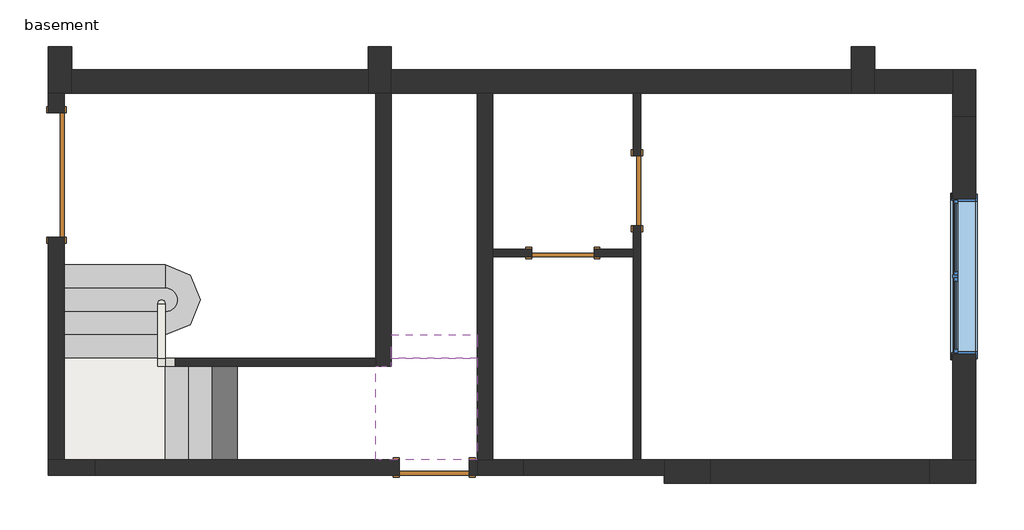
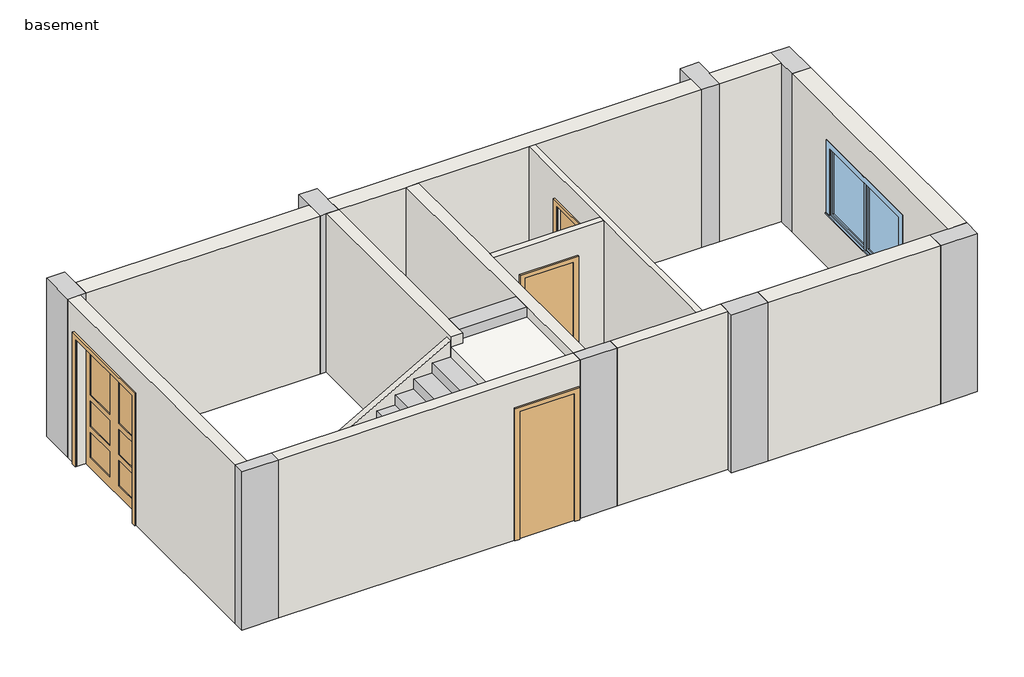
# One storey: 15 walls, 8 columns, 4 doors, 4 stair flights, 2 slabs, 1 window.
"""IFC4 building model written with IfcOpenShell, lengths in millimetres."""

import ifcopenshell
import ifcopenshell.guid

model = None  # the IFC model being written
_history = None  # IfcOwnerHistory: only IFC2X3 demands one
_inside = {}  # id of a spatial element -> (the spatial element, [elements in it])
_under = {}  # id of a project, library or spatial element -> (it, [spatial elements below it])
_declared = {}  # id of a project -> (the project, [libraries it declares])
_typed = {}  # id of a type object -> (the type object, [elements of that type])
_made_of = {}  # id of a material, layer set ... -> (it, [elements and type objects made of it])


def new_model(schema):
    """Start an empty IFC model of exactly this schema.

    Asked for "IFC4X3", IfcOpenShell would pick the latest addendum, in which some entities
    have other attributes; the version numbers below select the first issue.
    IFC2X3 requires an IfcOwnerHistory on every rooted entity: one is made here for all.
    """
    global model, _history
    if schema == "IFC4X3":
        model = ifcopenshell.file(schema_version=(4, 3, 0, 0))
    else:
        model = ifcopenshell.file(schema=schema)
    _inside.clear()
    _under.clear()
    _declared.clear()
    _typed.clear()
    _made_of.clear()
    _history = None
    if model.schema == "IFC2X3":
        org = make("IfcOrganization", Name="unknown")
        user = make(
            "IfcPersonAndOrganization",
            ThePerson=make("IfcPerson", FamilyName="unknown"),
            TheOrganization=org,
        )
        app = make(
            "IfcApplication",
            ApplicationDeveloper=org,
            Version="unknown",
            ApplicationFullName="unknown",
            ApplicationIdentifier="unknown",
        )
        _history = make(
            "IfcOwnerHistory",
            OwningUser=user,
            OwningApplication=app,
            ChangeAction="ADDED",
            CreationDate=0,
        )
    return model


def make(cls, **values):
    """One entity of the class cls with the attributes given. An attribute that is None is left unset."""
    return model.create_entity(
        cls, **{name: value for name, value in values.items() if value is not None}
    )


def rooted(cls, **values):
    """An entity with a GlobalId (a new one), such as an element, a storey or a relation."""
    return make(cls, GlobalId=ifcopenshell.guid.new(), OwnerHistory=_history, **values)


def si_unit(unit_type, name, prefix=None):
    """IfcSIUnit, for example si_unit("LENGTHUNIT", "METRE", prefix="MILLI")."""
    return make("IfcSIUnit", UnitType=unit_type, Prefix=prefix, Name=name)


def assignment(units):
    """IfcUnitAssignment: the units of a project."""
    return None if units is None else make("IfcUnitAssignment", Units=units)


def point(xyz):
    """IfcCartesianPoint."""
    return None if xyz is None else make("IfcCartesianPoint", Coordinates=xyz)


def direction(xyz):
    """IfcDirection."""
    return None if xyz is None else make("IfcDirection", DirectionRatios=xyz)


def frame(location, z_axis=None, x_axis=None):
    """IfcAxis2Placement3D, a coordinate frame: its origin and axes. An axis left out is left unset."""
    return make(
        "IfcAxis2Placement3D",
        Location=point(location),
        Axis=direction(z_axis),
        RefDirection=direction(x_axis),
    )


def frame_2d(location, x_axis=None):
    """IfcAxis2Placement2D, a coordinate frame in the plane: its origin and x axis."""
    return make(
        "IfcAxis2Placement2D", Location=point(location), RefDirection=direction(x_axis)
    )


def origin():
    """The frame at (0, 0, 0) with its axes left unset."""
    return frame((0.0, 0.0, 0.0))


def origin_with_axes():
    """The frame at (0, 0, 0) with the z axis (0, 0, 1) and the x axis (1, 0, 0) written out."""
    return frame((0.0, 0.0, 0.0), z_axis=(0.0, 0.0, 1.0), x_axis=(1.0, 0.0, 0.0))


def place(relative_to, where):
    """IfcLocalPlacement: puts the frame where relative to a parent placement (None: the world)."""
    return make(
        "IfcLocalPlacement", PlacementRelTo=relative_to, RelativePlacement=where
    )


def context(
    kind, dimensions, precision=None, world=None, true_north=None, identifier=None
):
    """IfcGeometricRepresentationContext, for example the 3D "Model" context."""
    return make(
        "IfcGeometricRepresentationContext",
        ContextIdentifier=identifier,
        ContextType=kind,
        CoordinateSpaceDimension=dimensions,
        Precision=precision,
        WorldCoordinateSystem=world,
        TrueNorth=true_north,
    )


def project(units=None, contexts=None):
    """IfcProject with its units and contexts."""
    return rooted(
        "IfcProject",
        Name="project",
        RepresentationContexts=contexts,
        UnitsInContext=assignment(units),
    )


def spatial(cls, under=None, at=None, **own):
    """A site, building, storey or space (cls), placed at a placement, below another one or the project."""
    s = rooted(cls, ObjectPlacement=at, **own)
    if under is not None:
        _under.setdefault(under.id(), (under, []))[1].append(s)
    return s


def polyline(points):
    """IfcPolyline through the points."""
    return make("IfcPolyline", Points=[point(p) for p in points])


def circle_curve(where, radius):
    """IfcCircle in the frame where."""
    return make("IfcCircle", Position=where, Radius=radius)


def ellipse_curve(where, semi_axis1, semi_axis2):
    """IfcEllipse in the frame where."""
    return make(
        "IfcEllipse", Position=where, SemiAxis1=semi_axis1, SemiAxis2=semi_axis2
    )


def trimmed(basis, trim1, trim2, sense, master):
    """IfcTrimmedCurve: the piece of a basis curve between two trims."""
    return make(
        "IfcTrimmedCurve",
        BasisCurve=basis,
        Trim1=trim1,
        Trim2=trim2,
        SenseAgreement=sense,
        MasterRepresentation=master,
    )


def segment(curve, same_sense, transition):
    """IfcCompositeCurveSegment."""
    return make(
        "IfcCompositeCurveSegment",
        Transition=transition,
        SameSense=same_sense,
        ParentCurve=curve,
    )


def composite_curve(segments, self_intersect=None):
    """IfcCompositeCurve: segments joined end to end."""
    return make("IfcCompositeCurve", Segments=segments, SelfIntersect=self_intersect)


def outline(outer, holes=None, kind="AREA"):
    """IfcArbitraryClosedProfileDef: a profile drawn as a closed curve; with holes, ...WithVoids."""
    if holes is None:
        return make("IfcArbitraryClosedProfileDef", ProfileType=kind, OuterCurve=outer)
    return make(
        "IfcArbitraryProfileDefWithVoids",
        ProfileType=kind,
        OuterCurve=outer,
        InnerCurves=holes,
    )


def extrude(swept, where, along, depth):
    """IfcExtrudedAreaSolid: the profile swept, set in the frame where, extruded along a direction by depth."""
    return make(
        "IfcExtrudedAreaSolid",
        SweptArea=swept,
        Position=where,
        ExtrudedDirection=direction(along),
        Depth=depth,
    )


def faces_of(points, faces, orient=None, outer=None):
    """IfcFace entities. A face is a list of loops; a loop is a list of indices into points, from 0.

    orient and outer hold one flag for each loop. By default every Orientation is true, the
    first loop of a face is its IfcFaceOuterBound and the others are IfcFaceBound.
    """
    made = []
    for i, loops in enumerate(faces):
        bounds = []
        for j, loop in enumerate(loops):
            is_outer = j == 0 if outer is None else outer[i][j]
            bounds.append(
                make(
                    "IfcFaceOuterBound" if is_outer else "IfcFaceBound",
                    Bound=make("IfcPolyLoop", Polygon=[points[k] for k in loop]),
                    Orientation=True if orient is None else orient[i][j],
                )
            )
        made.append(make("IfcFace", Bounds=bounds))
    return made


def faceted_brep(points, faces, orient=None, outer=None, voids=None):
    """IfcFacetedBrep: a solid bounded by flat faces; with voids (closed shells), ...WithVoids."""
    shared = [point(p) for p in points]
    hull = make("IfcClosedShell", CfsFaces=faces_of(shared, faces, orient, outer))
    if voids is None:
        return make("IfcFacetedBrep", Outer=hull)
    return make(
        "IfcFacetedBrepWithVoids",
        Outer=hull,
        Voids=[
            make(cls, CfsFaces=faces_of(shared, fs, o, b)) for cls, fs, o, b in voids
        ],
    )


def shape(context_of_items, identifier, shape_type, items):
    """IfcShapeRepresentation: the items that make up one representation, for example the "Body"."""
    return make(
        "IfcShapeRepresentation",
        ContextOfItems=context_of_items,
        RepresentationIdentifier=identifier,
        RepresentationType=shape_type,
        Items=items,
    )


def source(mapping_origin, context_of_items, identifier, shape_type, items):
    """IfcRepresentationMap: a shape defined once, which mapped items show again and again."""
    return make(
        "IfcRepresentationMap",
        MappingOrigin=mapping_origin,
        MappedRepresentation=shape(context_of_items, identifier, shape_type, items),
    )


def transform(
    local_origin,
    x_axis=None,
    y_axis=None,
    z_axis=None,
    scale=None,
    scale2=None,
    scale3=None,
    uniform=True,
):
    """IfcCartesianTransformationOperator3D, or its non-uniform kind. x_axis, y_axis, z_axis: its Axis1, 2, 3."""
    if uniform:
        return make(
            "IfcCartesianTransformationOperator3D",
            Axis1=direction(x_axis),
            Axis2=direction(y_axis),
            LocalOrigin=point(local_origin),
            Scale=scale,
            Axis3=direction(z_axis),
        )
    return make(
        "IfcCartesianTransformationOperator3DnonUniform",
        Axis1=direction(x_axis),
        Axis2=direction(y_axis),
        LocalOrigin=point(local_origin),
        Scale=scale,
        Axis3=direction(z_axis),
        Scale2=scale2,
        Scale3=scale3,
    )


def mapped(mapping_source, mapping_target):
    """IfcMappedItem: shows the shape of a source again, moved by a transform."""
    return make(
        "IfcMappedItem", MappingSource=mapping_source, MappingTarget=mapping_target
    )


def made_of(thing, what):
    """Note that an element or type object is made of a material, layer set ...; save() writes the relation."""
    if what is not None:
        _made_of.setdefault(what.id(), (what, []))[1].append(thing)
    return thing


def element(
    cls,
    number,
    at=None,
    inside=None,
    cuts=None,
    type_object=None,
    material=None,
    context=None,
    identifier="Body",
    shape_type=None,
    held_by="IfcProductDefinitionShape",
    body=None,
    shapes=None,
    **own,
):
    """One element of the class cls, such as IfcWall. Its Tag is "e" and its number.

    at: its placement. inside: the storey or other place that contains it. cuts: it is an
    opening in that element (IfcRelVoidsElement). A single representation is given by context,
    identifier, shape_type and body (its items); several are given by shapes. held_by: the class
    of the entity that holds the representations. save() writes the other relations.
    """
    e = rooted(cls, Tag="e%d" % number, ObjectPlacement=at, **own)
    if body is not None:
        shapes = [shape(context, identifier, shape_type, body)]
    if shapes is not None:
        e.Representation = make(held_by, Representations=shapes)
    if inside is not None:
        _inside.setdefault(inside.id(), (inside, []))[1].append(e)
    if cuts is not None:
        rooted(
            "IfcRelVoidsElement", RelatingBuildingElement=cuts, RelatedOpeningElement=e
        )
    if type_object is not None:
        _typed.setdefault(type_object.id(), (type_object, []))[1].append(e)
    return made_of(e, material)


def aggregate(whole, parts):
    """IfcRelAggregates: a whole, such as a stair, and the parts it consists of."""
    return rooted("IfcRelAggregates", RelatingObject=whole, RelatedObjects=parts)


def save(model, path):
    """Write the relations noted so far, then the file.

    IfcRelAggregates (storeys below a building ...), IfcRelContainedInSpatialStructure (elements
    in a storey), IfcRelDefinesByType, IfcRelAssociatesMaterial and IfcRelDeclares: one each for
    every whole, place, type object, material and project.
    """
    for whole, parts in _under.values():
        aggregate(whole, parts)
    for where, things in _inside.values():
        rooted(
            "IfcRelContainedInSpatialStructure",
            RelatedElements=things,
            RelatingStructure=where,
        )
    for kind, things in _typed.values():
        rooted("IfcRelDefinesByType", RelatedObjects=things, RelatingType=kind)
    for what, things in _made_of.values():
        rooted("IfcRelAssociatesMaterial", RelatedObjects=things, RelatingMaterial=what)
    for by, libraries in _declared.values():
        rooted("IfcRelDeclares", RelatingContext=by, RelatedDefinitions=libraries)
    model.write(path)


def plane_surface(at):
    """IfcPlane: the flat surface through the origin of the frame at, square to its z axis."""
    return make("IfcPlane", Position=at)


def cylinder_surface(at, radius):
    """IfcCylindricalSurface: all points at the distance radius from the z axis of the frame at."""
    return make("IfcCylindricalSurface", Position=at, Radius=radius)


def revolved_surface(curve, axis_point, axis_direction):
    """IfcSurfaceOfRevolution: the curve turned about the line through axis_point along axis_direction."""
    return make(
        "IfcSurfaceOfRevolution",
        SweptCurve=make("IfcArbitraryOpenProfileDef", ProfileType="CURVE", Curve=curve),
        AxisPosition=make("IfcAxis1Placement", Location=point(axis_point), Axis=direction(axis_direction)),
    )


def advanced_brep(points, edges, surfaces, faces):
    """IfcAdvancedBrep: a solid bounded by faces that lie on surfaces and meet in shared edges.

    An edge is (start, end): straight between two places in points (the first is 0);
    or (start, end, curve); or (start, end, curve, False) where it runs against its curve.
    A face is (place in surfaces, loops), or (place, loops, False) where it looks against
    its surface's normal. A loop lists edges by number (the first is 1), with a minus sign
    where the edge is run from its end to its start. The first loop is the outer one.
    """
    corners = [point(p) for p in points]
    vertices = [make("IfcVertexPoint", VertexGeometry=c) for c in corners]
    made = []
    for start, end, *more in edges:
        made.append(
            make(
                "IfcEdgeCurve",
                EdgeStart=vertices[start],
                EdgeEnd=vertices[end],
                EdgeGeometry=more[0] if more else make("IfcPolyline", Points=[corners[start], corners[end]]),
                SameSense=more[1] if len(more) > 1 else True,
            )
        )
    hull = []
    for where, loops, *sense in faces:
        bounds = []
        for j, loop in enumerate(loops):
            ring = [make("IfcOrientedEdge", EdgeElement=made[abs(k) - 1], Orientation=k > 0) for k in loop]
            bounds.append(
                make(
                    "IfcFaceOuterBound" if j == 0 else "IfcFaceBound",
                    Bound=make("IfcEdgeLoop", EdgeList=ring),
                    Orientation=True,
                )
            )
        hull.append(make("IfcAdvancedFace", Bounds=bounds, FaceSurface=surfaces[where], SameSense=sense[0] if sense else True))
    return make("IfcAdvancedBrep", Outer=make("IfcClosedShell", CfsFaces=hull))


def m_concrete_rectangular_column_200_x_600mm_4_bdcf31bf(model_context):
    return source(origin(), model_context, "Body", "SweptSolid", [
        extrude(outline(polyline([(100.0, 300.0), (100.0, -300.0), (-100.0, -300.0), (-100.0, 300.0), (100.0, 300.0)])), frame((0.0, 0.0, -1920.0), z_axis=(0.0, 0.0, 1.0), x_axis=(1.0, 0.0, 0.0)), (0.0, 0.0, 1.0), 2720.0),
    ])


def m_double_panel_1_1600_x_2200_de328169(model_context):
    return source(origin(), model_context, "Body", "SweptSolid", [
        extrude(outline(polyline([(2276.0, -876.0), (0.0, -876.0), (0.0, -800.0), (2200.0, -800.0), (2200.0, 800.0), (0.0, 800.0), (0.0, 876.0), (2276.0, 876.0), (2276.0, -876.0)])), frame((0.0, 100.0, 0.0), z_axis=(0.0, 1.0, 0.0), x_axis=(0.0, 0.0, 1.0)), (0.0, 0.0, 1.0), 25.0),
        extrude(outline(polyline([(127.0, 87.3), (673.0, 87.3), (673.0, 61.7), (127.0, 61.7), (127.0, 87.3)])), frame((0.0, 0.0, 1247.6), z_axis=(0.0, 0.0, 1.0), x_axis=(1.0, 0.0, 0.0)), (0.0, 0.0, 1.0), 800.0),
        extrude(outline(polyline([(127.0, 87.3), (673.0, 87.3), (673.0, 61.7), (127.0, 61.7), (127.0, 87.3)])), frame((0.0, 0.0, 711.3), z_axis=(0.0, 0.0, 1.0), x_axis=(1.0, 0.0, 0.0)), (0.0, 0.0, 1.0), 434.3),
        extrude(outline(polyline([(127.0, 87.3), (673.0, 87.3), (673.0, 61.7), (127.0, 61.7), (127.0, 87.3)])), frame((0.0, 0.0, 175.0), z_axis=(0.0, 0.0, 1.0), x_axis=(1.0, 0.0, 0.0)), (0.0, 0.0, 1.0), 434.3),
        extrude(outline(polyline([(-673.0, 87.3), (-127.0, 87.3), (-127.0, 61.7), (-673.0, 61.7), (-673.0, 87.3)])), frame((0.0, 0.0, 1247.6), z_axis=(0.0, 0.0, 1.0), x_axis=(1.0, 0.0, 0.0)), (0.0, 0.0, 1.0), 800.0),
        extrude(outline(polyline([(-673.0, 87.3), (-127.0, 87.3), (-127.0, 61.7), (-673.0, 61.7), (-673.0, 87.3)])), frame((0.0, 0.0, 711.3), z_axis=(0.0, 0.0, 1.0), x_axis=(1.0, 0.0, 0.0)), (0.0, 0.0, 1.0), 434.3),
        extrude(outline(polyline([(-673.0, 87.3), (-127.0, 87.3), (-127.0, 61.7), (-673.0, 61.7), (-673.0, 87.3)])), frame((0.0, 0.0, 175.0), z_axis=(0.0, 0.0, 1.0), x_axis=(1.0, 0.0, 0.0)), (0.0, 0.0, 1.0), 434.3),
        extrude(outline(polyline([(2200.0, -800.0), (0.0, -800.0), (0.0, 800.0), (2200.0, 800.0), (2200.0, -800.0)]), holes=[polyline([(2047.6, 127.0), (2047.6, 673.0), (1247.6, 673.0), (1247.6, 127.0), (2047.6, 127.0)]), polyline([(711.3, 673.0), (711.3, 127.0), (1145.6, 127.0), (1145.6, 673.0), (711.3, 673.0)]), polyline([(609.3, 673.0), (175.0, 673.0), (175.0, 127.0), (609.3, 127.0), (609.3, 673.0)]), polyline([(2047.6, -127.0), (1247.6, -127.0), (1247.6, -673.0), (2047.6, -673.0), (2047.6, -127.0)]), polyline([(1145.6, -673.0), (1145.6, -127.0), (711.3, -127.0), (711.3, -673.0), (1145.6, -673.0)]), polyline([(175.0, -127.0), (175.0, -673.0), (609.3, -673.0), (609.3, -127.0), (175.0, -127.0)])]), frame((0.0, 49.0, 0.0), z_axis=(0.0, 1.0, 0.0), x_axis=(0.0, 0.0, 1.0)), (0.0, 0.0, 1.0), 51.0),
        extrude(outline(polyline([(2200.0, -800.0), (2200.0, 800.0), (0.0, 800.0), (0.0, 876.0), (2276.0, 876.0), (2276.0, -876.0), (0.0, -876.0), (0.0, -800.0), (2200.0, -800.0)])), frame((0.0, -125.0, 0.0), z_axis=(0.0, 1.0, 0.0), x_axis=(0.0, 0.0, 1.0)), (0.0, 0.0, 1.0), 25.0),
    ])


def m_single_flush_0900_x_2200mm_2_1c9fdd87(model_context):
    return source(origin(), model_context, "Body", "SweptSolid", [
        extrude(outline(polyline([(2276.0, -526.0), (0.0, -526.0), (0.0, -450.0), (2200.0, -450.0), (2200.0, 450.0), (0.0, 450.0), (0.0, 526.0), (2276.0, 526.0), (2276.0, -526.0)])), frame((0.0, -75.0, 0.0), z_axis=(0.0, 1.0, 0.0), x_axis=(0.0, 0.0, 1.0)), (0.0, 0.0, 1.0), 25.0),
        extrude(outline(polyline([(2276.0, 526.0), (2276.0, -526.0), (0.0, -526.0), (0.0, -450.0), (2200.0, -450.0), (2200.0, 450.0), (0.0, 450.0), (0.0, 526.0), (2276.0, 526.0)])), frame((0.0, 50.0, 0.0), z_axis=(0.0, 1.0, 0.0), x_axis=(0.0, 0.0, 1.0)), (0.0, 0.0, 1.0), 25.0),
        extrude(outline(polyline([(450.0, 1.0), (450.0, -50.0), (-450.0, -50.0), (-450.0, 1.0), (450.0, 1.0)])), origin_with_axes(), (0.0, 0.0, 1.0), 2200.0),
    ])


def m_single_flush_0900_x_2200mm_2_99173924(model_context):
    return source(origin(), model_context, "Body", "SweptSolid", [
        extrude(outline(polyline([(2276.0, -526.0), (0.0, -526.0), (0.0, -450.0), (2200.0, -450.0), (2200.0, 450.0), (0.0, 450.0), (0.0, 526.0), (2276.0, 526.0), (2276.0, -526.0)])), frame((0.0, 100.0, 0.0), z_axis=(0.0, 1.0, 0.0), x_axis=(0.0, 0.0, 1.0)), (0.0, 0.0, 1.0), 25.0),
        extrude(outline(polyline([(2276.0, 526.0), (2276.0, -526.0), (0.0, -526.0), (0.0, -450.0), (2200.0, -450.0), (2200.0, 450.0), (0.0, 450.0), (0.0, 526.0), (2276.0, 526.0)])), frame((0.0, -125.0, 0.0), z_axis=(0.0, 1.0, 0.0), x_axis=(0.0, 0.0, 1.0)), (0.0, 0.0, 1.0), 25.0),
        extrude(outline(polyline([(450.0, 49.0), (-450.0, 49.0), (-450.0, 100.0), (450.0, 100.0), (450.0, 49.0)])), origin_with_axes(), (0.0, 0.0, 1.0), 2200.0),
    ])


def m_single_flush_800_x_2200mm_3_139129a3(model_context):
    return source(origin(), model_context, "Body", "SweptSolid", [
        extrude(outline(polyline([(2276.0, -476.0), (0.0, -476.0), (0.0, -400.0), (2200.0, -400.0), (2200.0, 400.0), (0.0, 400.0), (0.0, 476.0), (2276.0, 476.0), (2276.0, -476.0)])), frame((0.0, 50.0, 0.0), z_axis=(0.0, 1.0, 0.0), x_axis=(0.0, 0.0, 1.0)), (0.0, 0.0, 1.0), 25.0),
        extrude(outline(polyline([(2276.0, 476.0), (2276.0, -476.0), (0.0, -476.0), (0.0, -400.0), (2200.0, -400.0), (2200.0, 400.0), (0.0, 400.0), (0.0, 476.0), (2276.0, 476.0)])), frame((0.0, -75.0, 0.0), z_axis=(0.0, 1.0, 0.0), x_axis=(0.0, 0.0, 1.0)), (0.0, 0.0, 1.0), 25.0),
        extrude(outline(polyline([(400.0, -1.0), (-400.0, -1.0), (-400.0, 50.0), (400.0, 50.0), (400.0, -1.0)])), origin_with_axes(), (0.0, 0.0, 1.0), 2200.0),
    ])


def walls_3_walls_3_5e097b37(model_context):
    return source(origin(), model_context, "Body", "SweptSolid", [
        extrude(outline(composite_curve([segment(trimmed(circle_curve(frame_2d((-8001.4546742, -1931.8810781)), 50.0), [point((-8051.4546742, -1931.8810781))], [point((-7951.4546742, -1931.8810781))], False, "CARTESIAN"), True, "CONTINUOUS"), segment(polyline([(-7951.4546742, -1931.8810781), (-8051.4546742, -1931.8810781)]), True, "CONTINUOUS")], self_intersect=False)), frame((0.0, 0.0, -1920.0), z_axis=(0.0, 0.0, 1.0), x_axis=(1.0, 0.0, 0.0)), (0.0, 0.0, 1.0), 735.91634),
    ])


def m_casement_dbl_with_trim_2000_x_1200_efed7f01(model_context):
    return source(origin(), model_context, "Body", "SweptSolid", [
        extrude(outline(polyline([(63.5, -134.175), (63.5, -121.475), (936.5, -121.475), (936.5, -134.175), (63.5, -134.175)])), frame((0.0, 0.0, 1063.5), z_axis=(0.0, 0.0, 1.0), x_axis=(1.0, 0.0, 0.0)), (0.0, 0.0, 1.0), 1073.0),
        extrude(outline(polyline([(2180.95, 19.05), (1019.05, 19.05), (1019.05, 980.95), (2180.95, 980.95), (2180.95, 19.05)]), holes=[polyline([(2136.5, 63.5), (2136.5, 936.5), (1063.5, 936.5), (1063.5, 63.5), (2136.5, 63.5)])]), frame((0.0, -150.05, 0.0), z_axis=(0.0, 1.0, 0.0), x_axis=(0.0, 0.0, 1.0)), (0.0, 0.0, 1.0), 44.45),
        extrude(outline(polyline([(-1069.95, -194.75), (-1069.95, -169.05), (1069.95, -169.05), (1069.95, -194.75), (-1069.95, -194.75)])), frame((0.0, 0.0, 1000.0), z_axis=(0.0, 0.0, 1.0), x_axis=(1.0, 0.0, 0.0)), (0.0, 0.0, 1.0), 19.05),
        extrude(outline(polyline([(2180.95, -980.95), (2180.95, 980.95), (1019.05, 980.95), (1019.05, 1069.95), (2269.95, 1069.95), (2269.95, -1069.95), (1019.05, -1069.95), (1019.05, -980.95), (2180.95, -980.95)])), frame((0.0, -182.05, 0.0), z_axis=(0.0, 1.0, 0.0), x_axis=(0.0, 0.0, 1.0)), (0.0, 0.0, 1.0), 13.0),
        extrude(outline(polyline([(2257.25, 1057.25), (2257.25, -1057.25), (942.75, -1057.25), (942.75, 1057.25), (2257.25, 1057.25)]), holes=[polyline([(2168.25, 968.25), (1031.75, 968.25), (1031.75, -968.25), (2168.25, -968.25), (2168.25, 968.25)])]), frame((0.0, 130.95, 0.0), z_axis=(0.0, 1.0, 0.0), x_axis=(0.0, 0.0, 1.0)), (0.0, 0.0, 1.0), 19.0),
        extrude(outline(polyline([(-63.5, -121.475), (-63.5, -134.175), (-936.5, -134.175), (-936.5, -121.475), (-63.5, -121.475)])), frame((0.0, 0.0, 1063.5), z_axis=(0.0, 0.0, 1.0), x_axis=(1.0, 0.0, 0.0)), (0.0, 0.0, 1.0), 1073.0),
        extrude(outline(polyline([(2180.95, -980.95), (1019.05, -980.95), (1019.05, -19.05), (2180.95, -19.05), (2180.95, -980.95)]), holes=[polyline([(2136.5, -936.5), (2136.5, -63.5), (1063.5, -63.5), (1063.5, -936.5), (2136.5, -936.5)])]), frame((0.0, -150.05, 0.0), z_axis=(0.0, 1.0, 0.0), x_axis=(0.0, 0.0, 1.0)), (0.0, 0.0, 1.0), 44.45),
        extrude(outline(polyline([(2200.0, -1000.0), (1000.0, -1000.0), (1000.0, 1000.0), (2200.0, 1000.0), (2200.0, -1000.0)]), holes=[polyline([(2168.25, -968.25), (2168.25, 968.25), (1031.75, 968.25), (1031.75, -968.25), (2168.25, -968.25)])]), frame((0.0, -105.6, 0.0), z_axis=(0.0, 1.0, 0.0), x_axis=(0.0, 0.0, 1.0)), (0.0, 0.0, 1.0), 236.55),
        extrude(outline(polyline([(2200.0, 1000.0), (2200.0, -1000.0), (1000.0, -1000.0), (1000.0, 1000.0), (2200.0, 1000.0)]), holes=[polyline([(2180.95, 980.95), (1019.05, 980.95), (1019.05, -980.95), (2180.95, -980.95), (2180.95, 980.95)])]), frame((0.0, -169.05, 0.0), z_axis=(0.0, 1.0, 0.0), x_axis=(0.0, 0.0, 1.0)), (0.0, 0.0, 1.0), 63.45),
        extrude(outline(polyline([(19.05, -105.6), (19.05, -169.1), (-19.05, -169.1), (-19.05, -105.6), (19.05, -105.6)])), frame((0.0, 0.0, 1019.05), z_axis=(0.0, 0.0, 1.0), x_axis=(1.0, 0.0, 0.0)), (0.0, 0.0, 1.0), 1161.9),
    ])


model = new_model("IFC4")

# Units and contexts
model_context = context("Model", 3, world=origin())
ifc_project = project(units=[si_unit("LENGTHUNIT", "METRE", prefix="MILLI")], contexts=[model_context])

# Site, building, storey
site = spatial("IfcSite", under=ifc_project)
building = spatial("IfcBuilding", under=site)
storey = spatial("IfcBuildingStorey", under=building, Name="basement", Elevation=-1920.0)

# Columns
placement = place(None, origin())
element("IfcColumn", 1, ObjectType="M_Concrete-Rectangular-Column : 200 x 600mm 4", at=placement, inside=storey, context=model_context, shape_type="Brep", body=[
    faceted_brep([(-3351.4546742, -4131.8810781, -1920.0), (-3951.4546742, -4131.8810781, -1920.0), (-3951.4546742, -3931.8810781, -1920.0), (-3751.4546742, -3931.8810781, -1920.0), (-3351.4546742, -3931.8810781, -1920.0), (-3351.4546742, -4131.8810781, 800.0), (-3951.4546742, -4131.8810781, 800.0), (-3951.4546742, -3931.8810781, 800.0), (-3751.4546742, -3931.8810781, 800.0), (-3351.4546742, -3931.8810781, 800.0)], [[[0, 1, 2, 3, 4]], [[5, 6, 1, 0]], [[6, 7, 2, 1]], [[7, 8, 9, 4, 3, 2]], [[9, 5, 0, 4]], [[5, 9, 8, 7, 6]]]),
])
m_concrete_rectangular_column_200_x_600mm_4_shape = m_concrete_rectangular_column_200_x_600mm_4_bdcf31bf(model_context)
element("IfcColumn", 2, ObjectType="M_Concrete-Rectangular-Column : 200 x 600mm 4", at=placement, inside=storey, context=model_context, shape_type="MappedRepresentation", body=[
    mapped(m_concrete_rectangular_column_200_x_600mm_4_shape, transform((-9151.4546742, -4031.8810781, 0.0), x_axis=(0.0, -1.0, 0.0), y_axis=(1.0, 0.0, 0.0), z_axis=(0.0, 0.0, 1.0))),
])
element("IfcColumn", 3, ObjectType="M_Concrete-Rectangular-Column : 300 x 600mm 2", at=placement, inside=storey, context=model_context, shape_type="Brep", body=[
    faceted_brep([(-5051.4546742, 1368.1189219, -1920.0), (-5051.4546742, 1068.1189219, -1920.0), (-5051.4546742, 768.1189219, -1920.0), (-5251.4546742, 768.1189219, -1920.0), (-5351.4546742, 768.1189219, -1920.0), (-5351.4546742, 1368.1189219, -1920.0), (-5051.4546742, 1368.1189219, 800.0), (-5051.4546742, 1068.1189219, 800.0), (-5051.4546742, 768.1189219, 800.0), (-5251.4546742, 768.1189219, 800.0), (-5351.4546742, 768.1189219, 800.0), (-5351.4546742, 1368.1189219, 800.0)], [[[0, 1, 2, 3, 4, 5]], [[6, 7, 8, 2, 1, 0]], [[8, 9, 10, 4, 3, 2]], [[10, 11, 5, 4]], [[11, 6, 0, 5]], [[6, 11, 10, 9, 8, 7]]]),
])
element("IfcColumn", 4, ObjectType="M_Concrete-Rectangular-Column : 300 x 600mm 2", at=placement, inside=storey, context=model_context, shape_type="SweptSolid", body=[
    extrude(outline(polyline([(-9151.4546742, 1368.1189219), (-9151.4546742, 768.1189219), (-9451.4546742, 768.1189219), (-9451.4546742, 1368.1189219), (-9151.4546742, 1368.1189219)])), frame((0.0, 0.0, -1920.0), z_axis=(0.0, 0.0, 1.0), x_axis=(1.0, 0.0, 0.0)), (0.0, 0.0, 1.0), 2720.0),
])
element("IfcColumn", 5, ObjectType="M_Concrete-Rectangular-Column : 300 x 600mm 2", at=placement, inside=storey, context=model_context, shape_type="SweptSolid", body=[
    extrude(outline(polyline([(1148.5453258, 1368.1189219), (1148.5453258, 768.1189219), (848.5453258, 768.1189219), (848.5453258, 1368.1189219), (1148.5453258, 1368.1189219)])), frame((0.0, 0.0, -1920.0), z_axis=(0.0, 0.0, 1.0), x_axis=(1.0, 0.0, 0.0)), (0.0, 0.0, 1.0), 2720.0),
])
element("IfcColumn", 6, ObjectType="M_Concrete-Rectangular-Column : 300 x 600mm 2", at=placement, inside=storey, context=model_context, shape_type="SweptSolid", body=[
    extrude(outline(polyline([(-951.4546742, -4231.8810781), (-1551.4546742, -4231.8810781), (-1551.4546742, -3931.8810781), (-951.4546742, -3931.8810781), (-951.4546742, -4231.8810781)])), frame((0.0, 0.0, -1920.0), z_axis=(0.0, 0.0, 1.0), x_axis=(1.0, 0.0, 0.0)), (0.0, 0.0, 1.0), 2720.0),
])
element("IfcColumn", 7, ObjectType="M_Concrete-Rectangular-Column : 300 x 600mm 2", at=placement, inside=storey, context=model_context, shape_type="SweptSolid", body=[
    extrude(outline(polyline([(2448.5453258, -4231.8810781), (1848.5453258, -4231.8810781), (1848.5453258, -3931.8810781), (2448.5453258, -3931.8810781), (2448.5453258, -4231.8810781)])), frame((0.0, 0.0, -1920.0), z_axis=(0.0, 0.0, 1.0), x_axis=(1.0, 0.0, 0.0)), (0.0, 0.0, 1.0), 2720.0),
])
element("IfcColumn", 8, ObjectType="M_Concrete-Rectangular-Column : 300 x 600mm 2", at=placement, inside=storey, context=model_context, shape_type="Brep", body=[
    faceted_brep([(2448.5453258, 1068.1189219, -1920.0), (2448.5453258, 468.1189219, -1920.0), (2148.5453258, 468.1189219, -1920.0), (2148.5453258, 768.1189219, -1920.0), (2148.5453258, 1068.1189219, -1920.0), (2448.5453258, 1068.1189219, 800.0), (2448.5453258, 468.1189219, 800.0), (2148.5453258, 468.1189219, 800.0), (2148.5453258, 768.1189219, 800.0), (2148.5453258, 1068.1189219, 800.0)], [[[0, 1, 2, 3, 4]], [[5, 6, 1, 0]], [[6, 7, 2, 1]], [[7, 8, 9, 4, 3, 2]], [[9, 5, 0, 4]], [[5, 9, 8, 7, 6]]]),
])

# Doors
m_double_panel_1_1600_x_2200_shape = m_double_panel_1_1600_x_2200_de328169(model_context)
element("IfcDoor", 9, ObjectType="M_Double-Panel 1 : 1600 x 2200", at=placement, inside=storey, context=model_context, shape_type="MappedRepresentation", body=[
    mapped(m_double_panel_1_1600_x_2200_shape, transform((-9351.4546742, -281.5302806, -1920.0), x_axis=(0.0, -1.0, 0.0), y_axis=(1.0, 0.0, 0.0), z_axis=(0.0, 0.0, 1.0))),
])
m_single_flush_0900_x_2200mm_2_shape = m_single_flush_0900_x_2200mm_2_1c9fdd87(model_context)
element("IfcDoor", 10, ObjectType="M_Single-Flush : 0900 x 2200mm 2", at=placement, inside=storey, context=model_context, shape_type="MappedRepresentation", body=[
    mapped(m_single_flush_0900_x_2200mm_2_shape, transform((-1901.4546742, -481.8810781, -1920.0), x_axis=(0.0, 1.0, 0.0), y_axis=(-1.0, 0.0, 0.0), z_axis=(0.0, 0.0, 1.0))),
])
m_single_flush_0900_x_2200mm_2_2_shape = m_single_flush_0900_x_2200mm_2_99173924(model_context)
element("IfcDoor", 11, ObjectType="M_Single-Flush : 0900 x 2200mm 2", at=placement, inside=storey, context=model_context, shape_type="MappedRepresentation", body=[
    mapped(m_single_flush_0900_x_2200mm_2_2_shape, transform((-4501.4546742, -4031.8810781, -1920.0), x_axis=(-1.0, 0.0, 0.0), y_axis=(0.0, -1.0, 0.0), z_axis=(0.0, 0.0, 1.0))),
])
m_single_flush_800_x_2200mm_3_shape = m_single_flush_800_x_2200mm_3_139129a3(model_context)
element("IfcDoor", 12, ObjectType="M_Single-Flush : 800 x 2200mm 3", at=placement, inside=storey, context=model_context, shape_type="MappedRepresentation", body=[
    mapped(m_single_flush_800_x_2200mm_3_shape, transform((-2851.4546742, -1281.8810781, -1920.0), x_axis=(-1.0, 0.0, 0.0), y_axis=(0.0, -1.0, 0.0), z_axis=(0.0, 0.0, 1.0))),
])

# Slabs
element("IfcSlab", 13, ObjectType="300mm Thickness", at=placement, inside=storey, context=model_context, shape_type="Brep", body=[
    faceted_brep([(-8051.4546742, -2631.8810781, -1070.0), (-9251.4546742, -2631.8810781, -1070.0), (-9251.4546742, -2706.7211896, -1070.0), (-9251.4546742, -3931.8810781, -1070.0), (-8176.6145627, -3931.8810781, -1070.0), (-7951.4546742, -3931.8810781, -1070.0), (-7951.4546742, -2731.8810781, -1070.0), (-8051.4546742, -2731.8810781, -1070.0), (-8051.4546742, -2706.7211896, -1070.0), (-8051.4546742, -2631.8810781, -1240.0), (-8051.4546742, -2631.8810781, -1412.4093965), (-9251.4546742, -2631.8810781, -1412.4093965), (-9251.4546742, -2631.8810781, -1240.0), (-9251.4546742, -2706.7211896, -1370.0), (-9251.4546742, -3931.8810781, -1370.0), (-8176.6145627, -3931.8810781, -1370.0), (-7951.4546742, -3931.8810781, -1242.4093965), (-7951.4546742, -2731.8810781, -1242.4093965), (-8051.4546742, -2731.8810781, -1299.0760632), (-8051.4546742, -2731.8810781, -1370.0), (-8051.4546742, -2706.7211896, -1370.0), (-8176.6145627, -2731.8810781, -1370.0)], [[[0, 1, 2, 3, 4, 5, 6, 7, 8]], [[1, 0, 9, 10, 11, 12]], [[1, 12, 11, 13, 14, 3, 2]], [[3, 14, 15, 16, 5, 4]], [[6, 5, 16, 17]], [[7, 6, 17, 18]], [[10, 9, 0, 8, 7, 18, 19, 20]], [[19, 21, 15, 14, 13, 20]], [[21, 19, 18]], [[20, 13, 11, 10]], [[15, 21, 18, 17, 16]]]),
])
element("IfcSlab", 14, ObjectType="300mm Thickness", at=placement, inside=storey, context=model_context, shape_type="Brep", body=[
    faceted_brep([(-5251.4546742, -2731.8810781, 630.0), (-5251.4546742, -3931.8810781, 630.0), (-5176.6145627, -3931.8810781, 630.0), (-3951.4546742, -3931.8810781, 630.0), (-3951.4546742, -2857.0409667, 630.0), (-3951.4546742, -2631.8810781, 630.0), (-5051.4546742, -2631.8810781, 630.0), (-5051.4546742, -2731.8810781, 630.0), (-5176.6145627, -2731.8810781, 630.0), (-5251.4546742, -2731.8810781, 460.0), (-5251.4546742, -2731.8810781, 287.5906035), (-5251.4546742, -3931.8810781, 287.5906035), (-5251.4546742, -3931.8810781, 460.0), (-5176.6145627, -3931.8810781, 330.0), (-3951.4546742, -3931.8810781, 330.0), (-3951.4546742, -2857.0409667, 330.0), (-3951.4546742, -2631.8810781, 457.5906035), (-5051.4546742, -2631.8810781, 457.5906035), (-5051.4546742, -2731.8810781, 400.9239368), (-5051.4546742, -2731.8810781, 330.0), (-5176.6145627, -2731.8810781, 330.0), (-5051.4546742, -2857.0409667, 330.0)], [[[0, 1, 2, 3, 4, 5, 6, 7, 8]], [[1, 0, 9, 10, 11, 12]], [[1, 12, 11, 13, 14, 3, 2]], [[3, 14, 15, 16, 5, 4]], [[6, 5, 16, 17]], [[7, 6, 17, 18]], [[10, 9, 0, 8, 7, 18, 19, 20]], [[19, 21, 15, 14, 13, 20]], [[21, 19, 18]], [[20, 13, 11, 10]], [[15, 21, 18, 17, 16]]]),
])

# Stair flights
element("IfcStairFlight", 15, ObjectType="150mm Depth", at=placement, inside=storey, context=model_context, shape_type="AdvancedBrep", body=[
    advanced_brep(
    [(-7951.4546742, -1731.8810781, -1750.0), (-7951.4546742, -1431.8810781, -1750.0), (-9251.4546742, -1431.8810781, -1750.0), (-9251.4546742, -1731.8810781, -1750.0), (-7951.4546742, -1731.8810781, -1920.0), (-7951.4546742, -1431.8810781, -1920.0), (-9251.4546742, -1431.8810781, -1920.0), (-9251.4546742, -1731.8810781, -1920.0), (-7915.9936477, -1736.1329543, -1920.0), (-9251.4546742, -1736.1329543, -1920.0), (-7951.4546742, -2031.8810781, -1752.4093965), (-7951.4546742, -1931.8810781, -1809.0760632), (-8051.4546742, -1931.8810781, -1809.0760632), (-8051.4546742, -2031.8810781, -1752.4093965), (-8051.4546742, -2331.8810781, -1582.4093965), (-8051.4546742, -2631.8810781, -1412.4093965), (-9251.4546742, -2631.8810781, -1412.4093965), (-9251.4546742, -2331.8810781, -1582.4093965), (-9251.4546742, -2031.8810781, -1752.4093965), (-8051.4546742, -2031.8810781, -1580.0), (-8051.4546742, -1931.8810781, -1580.0), (-7951.4546742, -1931.8810781, -1580.0), (-7951.4546742, -2031.8810781, -1580.0), (-7951.4546742, -1731.8810781, -1580.0), (-9251.4546742, -1731.8810781, -1580.0), (-9251.4546742, -2031.8810781, -1580.0), (-8051.4546742, -2331.8810781, -1410.0), (-8051.4546742, -2031.8810781, -1410.0), (-9251.4546742, -2031.8810781, -1410.0), (-9251.4546742, -2331.8810781, -1410.0), (-8051.4546742, -2631.8810781, -1240.0), (-8051.4546742, -2331.8810781, -1240.0), (-9251.4546742, -2331.8810781, -1240.0), (-9251.4546742, -2631.8810781, -1240.0)],
    [
        (0, 1),
        (1, 2),
        (2, 3),
        (3, 0),
        (0, 4),
        (4, 5),
        (5, 1),
        (5, 6),
        (6, 2),
        (6, 7),
        (7, 3),
        (4, 8, circle_curve(frame((-7951.4546742, -1881.8810781, -1920.0), z_axis=(0.0, 0.0, -1.0), x_axis=(1.0, 0.0, 0.0)), 150.0)),
        (8, 9),
        (9, 7),
        (8, 10, ellipse_curve(frame((-7951.4546742, -1881.8810781, -1837.4093965), z_axis=(0.0, -0.49301257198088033, -0.8700221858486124), x_axis=(0.0, -0.8700221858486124, 0.49301257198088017)), 172.4093965, 150.0)),
        (10, 11),
        (11, 12, ellipse_curve(frame((-8001.4546742, -1931.8810781, -1809.0760632), z_axis=(0.0, 0.49301257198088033, 0.8700221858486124), x_axis=(0.0, 0.8700221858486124, -0.49301257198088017)), 57.4697988, 50.0)),
        (12, 13),
        (13, 14),
        (14, 15),
        (15, 16),
        (16, 17),
        (17, 18),
        (18, 9),
        (19, 20),
        (20, 21, circle_curve(frame((-8001.4546742, -1931.8810781, -1580.0), z_axis=(0.0, 0.0, -1.0), x_axis=(1.0, 0.0, 0.0)), 50.0)),
        (21, 22),
        (22, 23, circle_curve(frame((-7951.4546742, -1881.8810781, -1580.0), z_axis=(0.0, 0.0, 1.0), x_axis=(1.0, 0.0, 0.0)), 150.0)),
        (23, 24),
        (24, 25),
        (25, 19),
        (19, 13),
        (12, 20),
        (11, 21),
        (10, 22),
        (3, 24),
        (23, 0),
        (18, 25),
        (26, 27),
        (27, 28),
        (28, 29),
        (29, 26),
        (26, 14),
        (19, 27),
        (25, 28),
        (17, 29),
        (30, 31),
        (31, 32),
        (32, 33),
        (33, 30),
        (30, 15),
        (26, 31),
        (29, 32),
        (16, 33),
    ],
    [
        plane_surface(frame((-7951.4546742, -1431.8810781, -1750.0), z_axis=(0.0, 0.0, 1.0), x_axis=(0.0, 1.0, 0.0))),
        plane_surface(frame((-7951.4546742, -1731.8810781, -1750.0), z_axis=(1.0, 0.0, 0.0), x_axis=(0.0, 0.0, -1.0))),
        plane_surface(frame((-7951.4546742, -1431.8810781, -1750.0), z_axis=(0.0, 1.0, 0.0), x_axis=(0.0, 0.0, -1.0))),
        plane_surface(frame((-9251.4546742, -1431.8810781, -1750.0), z_axis=(-1.0, 0.0, 0.0), x_axis=(0.0, 0.0, -1.0))),
        plane_surface(frame((0.0, 0.0, -1920.0), z_axis=(0.0, 0.0, -1.0), x_axis=(1.0, 0.0, 0.0))),
        plane_surface(frame((-8601.4546742, -1431.8810781, -2092.4093965), z_axis=(0.0, -0.49301257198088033, -0.8700221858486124), x_axis=(1.0, 0.0, 0.0))),
        plane_surface(frame((-8051.4546742, -1431.8810781, -1580.0), z_axis=(0.0, 0.0, 1.0), x_axis=(0.0, 1.0, 0.0))),
        plane_surface(frame((-8051.4546742, -2031.8810781, -1580.0), z_axis=(1.0, 0.0, 0.0), x_axis=(0.0, 0.0, -1.0))),
        revolved_surface(polyline([(-7951.4546742, -1931.8810781, -1837.4093965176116), (-7951.4546742, -1931.8810781, -1580.0)]), (-8001.4546742, -1931.8810781, -2430.0), (0.0, 0.0, -1.0)),
        plane_surface(frame((-7951.4546742, -1931.8810781, -1580.0), z_axis=(-1.0, 0.0, 0.0), x_axis=(0.0, 0.0, -1.0))),
        plane_surface(frame((-7951.4546742, -1731.8810781, -1580.0), z_axis=(0.0, 1.0, 0.0), x_axis=(0.0, 0.0, -1.0))),
        plane_surface(frame((-9251.4546742, -1731.8810781, -1580.0), z_axis=(-1.0, 0.0, 0.0), x_axis=(0.0, 0.0, -1.0))),
        plane_surface(frame((-8051.4546742, -1431.8810781, -1410.0), z_axis=(0.0, 0.0, 1.0), x_axis=(0.0, 1.0, 0.0))),
        plane_surface(frame((-8051.4546742, -2331.8810781, -1410.0), z_axis=(1.0, 0.0, 0.0), x_axis=(0.0, 0.0, -1.0))),
        plane_surface(frame((-8051.4546742, -2031.8810781, -1410.0), z_axis=(0.0, 1.0, 0.0), x_axis=(0.0, 0.0, -1.0))),
        plane_surface(frame((-9251.4546742, -2031.8810781, -1410.0), z_axis=(-1.0, 0.0, 0.0), x_axis=(0.0, 0.0, -1.0))),
        plane_surface(frame((-8051.4546742, -1731.8810781, -1240.0), z_axis=(0.0, 0.0, 1.0), x_axis=(0.0, 1.0, 0.0))),
        plane_surface(frame((-8051.4546742, -2631.8810781, -1240.0), z_axis=(1.0, 0.0, 0.0), x_axis=(0.0, 0.0, -1.0))),
        plane_surface(frame((-8051.4546742, -2331.8810781, -1240.0), z_axis=(0.0, 1.0, 0.0), x_axis=(0.0, 0.0, -1.0))),
        plane_surface(frame((-9251.4546742, -2331.8810781, -1240.0), z_axis=(-1.0, 0.0, 0.0), x_axis=(0.0, 0.0, -1.0))),
        plane_surface(frame((-9251.4546742, -2631.8810781, -1240.0), z_axis=(0.0, -1.0, 0.0), x_axis=(0.0, 0.0, -1.0))),
        cylinder_surface(frame((-7951.4546742, -1881.8810781, -2430.0), z_axis=(0.0, 0.0, 1.0), x_axis=(1.0, 0.0, 0.0)), 150.0),
    ],
    [
        (0, [[1, 2, 3, 4]]),
        (1, [[-1, 5, 6, 7]]),
        (2, [[-2, -7, 8, 9]]),
        (3, [[-3, -9, 10, 11]]),
        (4, [[-6, 12, 13, 14, -10, -8]]),
        (5, [[-13, 15, 16, 17, 18, 19, 20, 21, 22, 23, 24]]),
        (6, [[25, 26, 27, 28, 29, 30, 31]]),
        (7, [[-25, 32, -18, 33]]),
        (8, [[-26, -33, -17, 34]]),
        (9, [[-27, -34, -16, 35]]),
        (10, [[-4, 36, -29, 37]]),
        (11, [[-11, -14, -24, 38, -30, -36]]),
        (12, [[39, 40, 41, 42]]),
        (13, [[-39, 43, -19, -32, 44]]),
        (14, [[-31, 45, -40, -44]]),
        (15, [[-41, -45, -38, -23, 46]]),
        (16, [[47, 48, 49, 50]]),
        (17, [[-47, 51, -20, -43, 52]]),
        (18, [[-42, 53, -48, -52]]),
        (19, [[-49, -53, -46, -22, 54]]),
        (20, [[-50, -54, -21, -51]]),
        (21, [[-5, -37, -28, -35, -15, -12]]),
    ],
),
])
element("IfcStairFlight", 16, ObjectType="150mm Depth", at=placement, inside=storey, context=model_context, shape_type="Brep", body=[
    faceted_brep([(-7651.4546742, -2731.8810781, -900.0), (-7951.4546742, -2731.8810781, -900.0), (-7951.4546742, -3931.8810781, -900.0), (-7651.4546742, -3931.8810781, -900.0), (-7651.4546742, -2731.8810781, -1072.4093965), (-7951.4546742, -2731.8810781, -1242.4093965), (-7951.4546742, -2731.8810781, -1070.0), (-7951.4546742, -3931.8810781, -1242.4093965), (-7951.4546742, -3931.8810781, -1070.0), (-7651.4546742, -3931.8810781, -1072.4093965), (-7351.4546742, -2731.8810781, -730.0), (-7651.4546742, -2731.8810781, -730.0), (-7651.4546742, -3931.8810781, -730.0), (-7351.4546742, -3931.8810781, -730.0), (-7351.4546742, -2731.8810781, -902.4093965), (-7351.4546742, -3931.8810781, -902.4093965), (-7051.4546742, -2731.8810781, -560.0), (-7351.4546742, -2731.8810781, -560.0), (-7351.4546742, -3931.8810781, -560.0), (-7051.4546742, -3931.8810781, -560.0), (-7051.4546742, -2731.8810781, -732.4093965), (-7051.4546742, -3931.8810781, -732.4093965), (-6751.4546742, -2731.8810781, -390.0), (-7051.4546742, -2731.8810781, -390.0), (-7051.4546742, -3931.8810781, -390.0), (-6751.4546742, -3931.8810781, -390.0), (-6751.4546742, -2731.8810781, -562.4093965), (-6751.4546742, -3931.8810781, -562.4093965), (-6451.4546742, -2731.8810781, -220.0), (-6751.4546742, -2731.8810781, -220.0), (-6751.4546742, -3931.8810781, -220.0), (-6451.4546742, -3931.8810781, -220.0), (-6451.4546742, -2731.8810781, -392.4093965), (-6451.4546742, -3931.8810781, -392.4093965), (-6151.4546742, -2731.8810781, -50.0), (-6451.4546742, -2731.8810781, -50.0), (-6451.4546742, -3931.8810781, -50.0), (-6151.4546742, -3931.8810781, -50.0), (-6151.4546742, -2731.8810781, -222.4093965), (-6151.4546742, -3931.8810781, -222.4093965), (-5851.4546742, -2731.8810781, 120.0), (-6151.4546742, -2731.8810781, 120.0), (-6151.4546742, -3931.8810781, 120.0), (-5851.4546742, -3931.8810781, 120.0), (-5851.4546742, -2731.8810781, -52.4093965), (-5851.4546742, -3931.8810781, -52.4093965), (-5551.4546742, -2731.8810781, 290.0), (-5851.4546742, -2731.8810781, 290.0), (-5851.4546742, -3931.8810781, 290.0), (-5551.4546742, -3931.8810781, 290.0), (-5551.4546742, -2731.8810781, 117.5906035), (-5551.4546742, -3931.8810781, 117.5906035), (-5251.4546742, -2731.8810781, 460.0), (-5551.4546742, -2731.8810781, 460.0), (-5551.4546742, -3931.8810781, 460.0), (-5251.4546742, -3931.8810781, 460.0), (-5251.4546742, -2731.8810781, 287.5906035), (-5251.4546742, -3931.8810781, 287.5906035)], [[[0, 1, 2, 3]], [[1, 0, 4, 5, 6]], [[2, 1, 6, 5, 7, 8]], [[3, 2, 8, 7, 9]], [[10, 11, 12, 13]], [[11, 10, 14, 4, 0]], [[12, 11, 0, 3]], [[13, 12, 3, 9, 15]], [[16, 17, 18, 19]], [[17, 16, 20, 14, 10]], [[18, 17, 10, 13]], [[19, 18, 13, 15, 21]], [[22, 23, 24, 25]], [[23, 22, 26, 20, 16]], [[24, 23, 16, 19]], [[25, 24, 19, 21, 27]], [[28, 29, 30, 31]], [[29, 28, 32, 26, 22]], [[30, 29, 22, 25]], [[31, 30, 25, 27, 33]], [[34, 35, 36, 37]], [[35, 34, 38, 32, 28]], [[36, 35, 28, 31]], [[37, 36, 31, 33, 39]], [[40, 41, 42, 43]], [[41, 40, 44, 38, 34]], [[42, 41, 34, 37]], [[43, 42, 37, 39, 45]], [[46, 47, 48, 49]], [[47, 46, 50, 44, 40]], [[48, 47, 40, 43]], [[49, 48, 43, 45, 51]], [[52, 53, 54, 55]], [[53, 52, 56, 50, 46]], [[54, 53, 46, 49]], [[55, 54, 49, 51, 57]], [[52, 55, 57, 56]], [[5, 4, 14, 20, 26, 32, 38, 44, 50, 56, 57, 51, 45, 39, 33, 27, 21, 15, 9, 7]]]),
])
element("IfcStairFlight", 17, ObjectType="150mm Depth", at=placement, inside=storey, context=model_context, shape_type="Brep", body=[
    faceted_brep([(-5051.4546742, -2331.8810781, 800.0), (-5051.4546742, -2631.8810781, 800.0), (-3951.4546742, -2631.8810781, 800.0), (-3951.4546742, -2331.8810781, 800.0), (-5051.4546742, -2331.8810781, 627.5906035), (-5051.4546742, -2631.8810781, 457.5906035), (-5051.4546742, -2631.8810781, 630.0), (-3951.4546742, -2631.8810781, 457.5906035), (-3951.4546742, -2631.8810781, 630.0), (-3951.4546742, -2331.8810781, 627.5906035)], [[[0, 1, 2, 3]], [[1, 0, 4, 5, 6]], [[2, 1, 6, 5, 7, 8]], [[3, 2, 8, 7, 9]], [[0, 3, 9, 4]], [[5, 4, 9, 7]]]),
])
element("IfcStairFlight", 18, ObjectType="150mm Depth", at=placement, inside=storey, context=model_context, shape_type="SweptSolid", body=[
    extrude(outline(composite_curve([segment(polyline([(-7951.4546742, -2331.8810781), (-7951.4546742, -2031.8810781)]), True, "CONTINUOUS"), segment(trimmed(circle_curve(frame_2d((-7951.4546742, -1881.8810781)), 150.0), [point((-7951.4546742, -2031.8810781))], [point((-7951.4546742, -1731.8810781))], True, "CARTESIAN"), True, "CONTINUOUS"), segment(polyline([(-7951.4546742, -1731.8810781), (-7951.4546742, -1431.8810781)]), True, "CONTINUOUS"), segment(trimmed(circle_curve(frame_2d((-7951.4546742, -1881.8810781)), 450.0), [point((-7951.4546742, -1431.8810781))], [point((-7951.4546742, -2331.8810781))], False, "CARTESIAN"), True, "CONTINUOUS")], self_intersect=False)), frame((0.0, 0.0, -1900.0), z_axis=(0.0, 0.0, 1.0), x_axis=(1.0, 0.0, 0.0)), (0.0, 0.0, 1.0), 150.0),
])

# Walls
element("IfcWall", 19, ObjectType="150-50-100 block work", at=placement, inside=storey, context=model_context, shape_type="SweptSolid", body=[
    extrude(outline(polyline([(-5351.4546742, 768.1189219), (-9151.4546742, 768.1189219), (-9151.4546742, 1068.1189219), (-5351.4546742, 1068.1189219), (-5351.4546742, 768.1189219)])), frame((0.0, 0.0, -1920.0), z_axis=(0.0, 0.0, 1.0), x_axis=(1.0, 0.0, 0.0)), (0.0, 0.0, 1.0), 2720.0),
])
element("IfcWall", 20, ObjectType="150-50-100 block work", at=placement, inside=storey, context=model_context, shape_type="SweptSolid", body=[
    extrude(outline(polyline([(2148.5453258, 768.1189219), (1148.5453258, 768.1189219), (1148.5453258, 1068.1189219), (2148.5453258, 1068.1189219), (2148.5453258, 768.1189219)])), frame((0.0, 0.0, -1920.0), z_axis=(0.0, 0.0, 1.0), x_axis=(1.0, 0.0, 0.0)), (0.0, 0.0, 1.0), 2720.0),
])
element("IfcWall", 21, ObjectType="150-50-100 block work", at=placement, inside=storey, context=model_context, shape_type="Brep", body=[
    faceted_brep([(848.5453258, 768.1189219, -1920.0), (848.5453258, 768.1189219, 800.0), (-1851.4546742, 768.1189219, 800.0), (-1951.4546742, 768.1189219, 800.0), (-3751.4546742, 768.1189219, 800.0), (-3951.4546742, 768.1189219, 800.0), (-5051.4546742, 768.1189219, 800.0), (-5051.4546742, 768.1189219, -1920.0), (-3951.4546742, 768.1189219, -1920.0), (-3751.4546742, 768.1189219, -1920.0), (-1951.4546742, 768.1189219, -1920.0), (-1851.4546742, 768.1189219, -1920.0), (848.5453258, 1068.1189219, 800.0), (848.5453258, 1068.1189219, -1920.0), (-5051.4546742, 1068.1189219, -1920.0), (-5051.4546742, 1068.1189219, 800.0)], [[[0, 1, 2, 3, 4, 5, 6, 7, 8, 9, 10, 11]], [[12, 13, 14, 15]], [[13, 0, 11, 10, 9, 8, 7, 14]], [[1, 0, 13, 12]], [[1, 12, 15, 6, 5, 4, 3, 2]], [[7, 6, 15, 14]]]),
])
element("IfcWall", 22, ObjectType="150-50-100 block work", at=placement, inside=storey, context=model_context, shape_type="SweptSolid", body=[
    extrude(outline(polyline([(468.1189219, -1920.0), (-3931.8810781, -1920.0), (-3931.8810781, 800.0), (468.1189219, 800.0), (468.1189219, -1920.0)]), holes=[polyline([(-2581.8810781, 195.0), (-2581.8810781, -1005.0), (-581.8810781, -1005.0), (-581.8810781, 195.0), (-2581.8810781, 195.0)])]), frame((2148.5453258, 0.0, 0.0), z_axis=(1.0, 0.0, 0.0), x_axis=(0.0, 1.0, 0.0)), (0.0, 0.0, 1.0), 300.0),
])
element("IfcWall", 23, ObjectType="150-50-100 block work", at=placement, inside=storey, context=model_context, shape_type="SweptSolid", body=[
    extrude(outline(polyline([(-951.4546742, -3931.8810781), (1848.5453258, -3931.8810781), (1848.5453258, -4231.8810781), (-951.4546742, -4231.8810781), (-951.4546742, -3931.8810781)])), frame((0.0, 0.0, -1920.0), z_axis=(0.0, 0.0, 1.0), x_axis=(1.0, 0.0, 0.0)), (0.0, 0.0, 1.0), 2720.0),
])
element("IfcWall", 24, ObjectType="Blockwork 100", at=placement, inside=storey, context=model_context, shape_type="Brep", body=[
    faceted_brep([(-1951.4546742, -3931.8810781, 800.0), (-1951.4546742, -1331.8810781, 800.0), (-1951.4546742, -1231.8810781, 800.0), (-1951.4546742, 768.1189219, 800.0), (-1951.4546742, 768.1189219, -1920.0), (-1951.4546742, -31.8810781, -1920.0), (-1951.4546742, -31.8810781, 280.0), (-1951.4546742, -931.8810781, 280.0), (-1951.4546742, -931.8810781, -1920.0), (-1951.4546742, -1231.8810781, -1920.0), (-1951.4546742, -1331.8810781, -1920.0), (-1951.4546742, -3931.8810781, -1920.0), (-1851.4546742, 768.1189219, 800.0), (-1851.4546742, -3931.8810781, 800.0), (-1851.4546742, -3931.8810781, -1920.0), (-1851.4546742, -931.8810781, -1920.0), (-1851.4546742, -931.8810781, 280.0), (-1851.4546742, -31.8810781, 280.0), (-1851.4546742, -31.8810781, -1920.0), (-1851.4546742, 768.1189219, -1920.0)], [[[0, 1, 2, 3, 4, 5, 6, 7, 8, 9, 10, 11]], [[12, 13, 14, 15, 16, 17, 18, 19]], [[4, 19, 18, 5]], [[14, 11, 10, 9, 8, 15]], [[3, 2, 1, 0, 13, 12]], [[4, 3, 12, 19]], [[0, 11, 14, 13]], [[17, 6, 5, 18]], [[7, 16, 15, 8]], [[16, 7, 6, 17]]]),
])
element("IfcWall", 25, ObjectType="Blockwork 100", at=placement, inside=storey, context=model_context, shape_type="SweptSolid", body=[
    extrude(outline(polyline([(800.0, -1951.4546742), (800.0, -3751.4546742), (-1920.0, -3751.4546742), (-1920.0, -3251.4546742), (280.0, -3251.4546742), (280.0, -2451.4546742), (-1920.0, -2451.4546742), (-1920.0, -1951.4546742), (800.0, -1951.4546742)])), frame((0.0, -1331.8810781, 0.0), z_axis=(0.0, 1.0, 0.0), x_axis=(0.0, 0.0, 1.0)), (0.0, 0.0, 1.0), 100.0),
])
element("IfcWall", 26, ObjectType="Blockwork 100", at=placement, inside=storey, context=model_context, shape_type="SweptSolid", body=[
    extrude(outline(polyline([(-1920.0, -5251.4546742), (743.3333333, -5251.4546742), (-786.6666667, -7951.4546742), (-1920.0, -7951.4546742), (-1920.0, -5251.4546742)])), frame((0.0, -2731.8810781, 0.0), z_axis=(0.0, 1.0, 0.0), x_axis=(0.0, 0.0, 1.0)), (0.0, 0.0, 1.0), 100.0),
])
element("IfcWall", 27, ObjectType="Blockwork 100", at=placement, inside=storey, context=model_context, shape_type="SweptSolid", body=[
    extrude(outline(polyline([(-2731.8810781, -1920.0), (-2731.8810781, -786.6666667), (-2639.1310781, -786.6666667), (-1931.8810781, -1187.4416667), (-1931.8810781, -1920.0), (-2731.8810781, -1920.0)])), frame((-8051.4546742, 0.0, 0.0), z_axis=(1.0, 0.0, 0.0), x_axis=(0.0, 1.0, 0.0)), (0.0, 0.0, 1.0), 100.0),
])
element("IfcWall", 28, ObjectType="Interior - Blockwork 200", at=placement, inside=storey, context=model_context, shape_type="SweptSolid", body=[
    extrude(outline(polyline([(768.1189219, 800.0), (768.1189219, -1920.0), (518.4697194, -1920.0), (518.4697194, 280.0), (-1081.5302806, 280.0), (-1081.5302806, -1920.0), (-3928.5757629, -1920.0), (-3928.5757629, 800.0), (768.1189219, 800.0)])), frame((-9451.4546742, 0.0, 0.0), z_axis=(1.0, 0.0, 0.0), x_axis=(0.0, 1.0, 0.0)), (0.0, 0.0, 1.0), 200.0),
])
element("IfcWall", 29, ObjectType="Interior - Blockwork 200", at=placement, inside=storey, context=model_context, shape_type="SweptSolid", body=[
    extrude(outline(polyline([(800.0, -8851.4546742), (-1920.0, -8851.4546742), (-1920.0, -4951.4546742), (280.0, -4951.4546742), (280.0, -4051.4546742), (-1920.0, -4051.4546742), (-1920.0, -3951.4546742), (800.0, -3951.4546742), (800.0, -8851.4546742)])), frame((0.0, -4131.8810781, 0.0), z_axis=(0.0, 1.0, 0.0), x_axis=(0.0, 0.0, 1.0)), (0.0, 0.0, 1.0), 200.0),
])
element("IfcWall", 30, ObjectType="Interior - Blockwork 200", at=placement, inside=storey, context=model_context, shape_type="Brep", body=[
    faceted_brep([(-3351.4546742, -4131.8810781, -1920.0), (-1551.4546742, -4131.8810781, -1920.0), (-1551.4546742, -4131.8810781, 800.0), (-3351.4546742, -4131.8810781, 800.0), (-3351.4546742, -3931.8810781, -1920.0), (-3351.4546742, -3931.8810781, 800.0), (-1951.4546742, -3931.8810781, 800.0), (-1851.4546742, -3931.8810781, 800.0), (-1551.4546742, -3931.8810781, 800.0), (-1551.4546742, -3931.8810781, -1920.0), (-1851.4546742, -3931.8810781, -1920.0), (-1951.4546742, -3931.8810781, -1920.0)], [[[0, 1, 2, 3]], [[4, 5, 6, 7, 8, 9, 10, 11]], [[1, 0, 4, 11, 10, 9]], [[2, 1, 9, 8]], [[3, 2, 8, 7, 6, 5]], [[0, 3, 5, 4]]]),
])
element("IfcWall", 31, ObjectType="Interior - Blockwork 200", at=placement, inside=storey, context=model_context, shape_type="Brep", body=[
    faceted_brep([(-3751.4546742, -3931.8810781, -1920.0), (-3751.4546742, -1331.8810781, -1920.0), (-3751.4546742, -1231.8810781, -1920.0), (-3751.4546742, 768.1189219, -1920.0), (-3751.4546742, 768.1189219, 800.0), (-3751.4546742, -1231.8810781, 800.0), (-3751.4546742, -1331.8810781, 800.0), (-3751.4546742, -3931.8810781, 800.0), (-3951.4546742, -3931.8810781, -1920.0), (-3951.4546742, -3931.8810781, 800.0), (-3951.4546742, 768.1189219, 800.0), (-3951.4546742, 768.1189219, -1920.0)], [[[0, 1, 2, 3, 4, 5, 6, 7]], [[8, 9, 10, 11]], [[3, 2, 1, 0, 8, 11]], [[7, 6, 5, 4, 10, 9]], [[0, 7, 9, 8]], [[4, 3, 11, 10]]]),
])
element("IfcWall", 32, ObjectType="Interior - Blockwork 200", at=placement, inside=storey, context=model_context, shape_type="Brep", body=[
    faceted_brep([(-5251.4546742, 768.1189219, -1920.0), (-5251.4546742, -2631.8810781, -1920.0), (-5251.4546742, -2731.8810781, -1920.0), (-5251.4546742, -2731.8810781, 743.3333333), (-5251.4546742, -2731.8810781, 800.0), (-5251.4546742, 768.1189219, 800.0), (-5051.4546742, 768.1189219, -1920.0), (-5051.4546742, 768.1189219, 800.0), (-5051.4546742, -2731.8810781, 800.0), (-5051.4546742, -2731.8810781, -1920.0)], [[[0, 1, 2, 3, 4, 5]], [[6, 7, 8, 9]], [[2, 1, 0, 6, 9]], [[5, 4, 8, 7]], [[0, 5, 7, 6]], [[4, 3, 2, 9, 8]]]),
])
walls_3_walls_3_shape = walls_3_walls_3_5e097b37(model_context)
element("IfcWall", 33, ObjectType="Walls 3 : Walls 3", at=placement, inside=storey, context=model_context, shape_type="MappedRepresentation", body=[
    mapped(walls_3_walls_3_shape, transform((0.0, 0.0, 0.0), x_axis=(1.0, 0.0, 0.0), y_axis=(0.0, 1.0, 0.0), z_axis=(0.0, 0.0, 1.0))),
])

# Window
m_casement_dbl_with_trim_2000_x_1200_shape = m_casement_dbl_with_trim_2000_x_1200_efed7f01(model_context)
element("IfcWindow", 34, ObjectType="M_Casement Dbl with Trim : 2000 x 1200", at=placement, inside=storey, context=model_context, shape_type="MappedRepresentation", body=[
    mapped(m_casement_dbl_with_trim_2000_x_1200_shape, transform((2317.5953258, -1581.8810781, -2005.0), x_axis=(0.0, -1.0, 0.0), y_axis=(1.0, 0.0, 0.0), z_axis=(0.0, 0.0, 1.0))),
])

save(model, "model.ifc")
